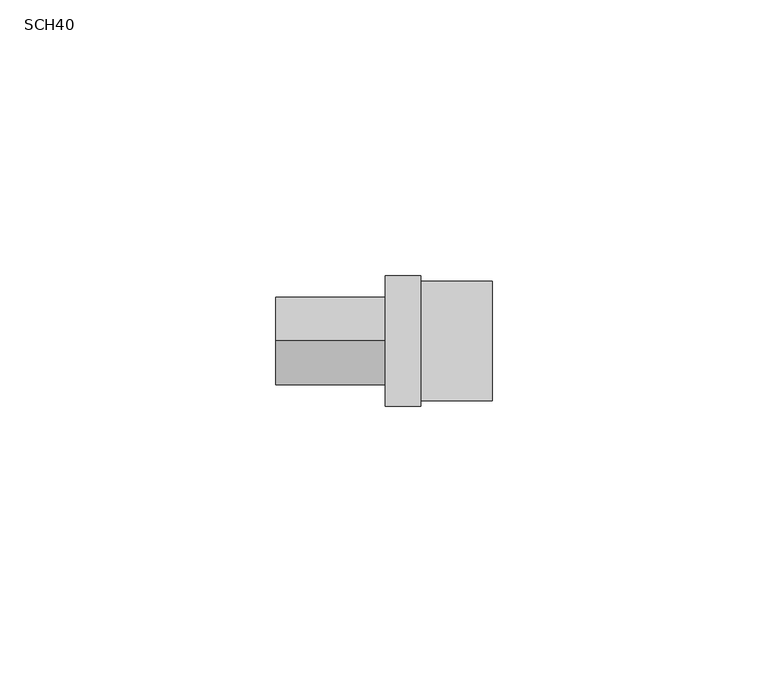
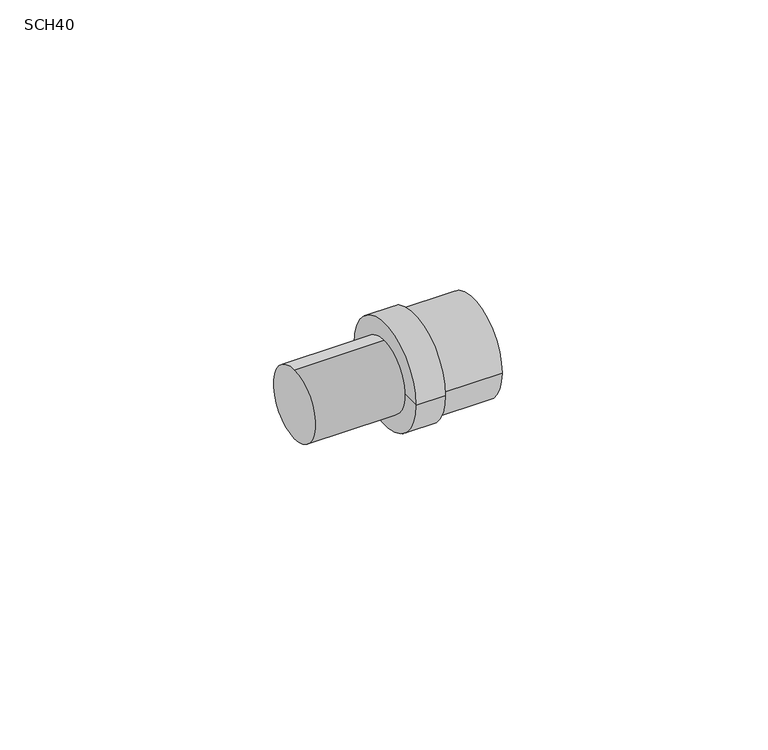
"""IFC4 building model written with IfcOpenShell, lengths in millimetres: pipe fitting geometry, PavcoWavin_UnionesDeTuberia_CpvcZNoUsarAdaptadorMacho : SCH40."""

from ifc_helpers import new_model, si_unit, point, frame, origin, origin_2d, place, context, project, spatial, polyline, circle_curve, trimmed, segment, composite_curve, outline, extrude, source, transform, mapped, element, save
from ifc_brep_helpers import plane_surface, cylinder_surface, revolved_surface, advanced_brep


def sch40_77e9e76e(model_context):
    return source(origin(), model_context, "Body", "SolidModel", [
        advanced_brep(
        [(13.13, 11.825, 0.0), (13.13, -11.825, 0.0), (6.76, -11.825, 0.0), (6.76, 11.825, 0.0), (13.13, 10.825, 0.0), (13.13, -10.825, 0.0), (26.13, 10.825, 0.0), (26.13, -10.825, 0.0), (26.13, 7.94, 0.0), (26.13, -7.94, 0.0), (13.13, 7.94, 0.0), (13.13, -7.94, 0.0), (13.13, 0.0, 0.0), (6.76, 0.0, 0.0)],
        [
            (0, 1, circle_curve(frame((13.13, 0.0, 0.0), z_axis=(-1.0, 0.0, 0.0), x_axis=(0.0, -1.0, 0.0)), 11.825)),
            (1, 2),
            (2, 3, circle_curve(frame((6.76, 0.0, 0.0), z_axis=(1.0, 0.0, 0.0), x_axis=(0.0, -1.0, 0.0)), 11.825)),
            (3, 0),
            (1, 0, circle_curve(frame((13.13, 0.0, 0.0), z_axis=(-1.0, 0.0, 0.0), x_axis=(0.0, -1.0, 0.0)), 11.825)),
            (3, 2, circle_curve(frame((6.76, 0.0, 0.0), z_axis=(1.0, 0.0, 0.0), x_axis=(0.0, -1.0, 0.0)), 11.825)),
            (4, 5, circle_curve(frame((13.13, 0.0, 0.0), z_axis=(-1.0, 0.0, 0.0), x_axis=(0.0, -1.0, 0.0)), 10.825)),
            (5, 1),
            (0, 4),
            (5, 4, circle_curve(frame((13.13, 0.0, 0.0), z_axis=(-1.0, 0.0, 0.0), x_axis=(0.0, -1.0, 0.0)), 10.825)),
            (6, 7, circle_curve(frame((26.13, 0.0, 0.0), z_axis=(-1.0, 0.0, 0.0), x_axis=(0.0, -1.0, 0.0)), 10.825)),
            (7, 5),
            (4, 6),
            (7, 6, circle_curve(frame((26.13, 0.0, 0.0), z_axis=(-1.0, 0.0, 0.0), x_axis=(0.0, -1.0, 0.0)), 10.825)),
            (8, 9, circle_curve(frame((26.13, 0.0, 0.0), z_axis=(-1.0, 0.0, 0.0), x_axis=(0.0, -1.0, 0.0)), 7.94)),
            (9, 7),
            (6, 8),
            (9, 8, circle_curve(frame((26.13, 0.0, 0.0), z_axis=(-1.0, 0.0, 0.0), x_axis=(0.0, -1.0, 0.0)), 7.94)),
            (10, 11, circle_curve(frame((13.13, 0.0, 0.0), z_axis=(-1.0, 0.0, 0.0), x_axis=(0.0, -1.0, 0.0)), 7.94)),
            (11, 9),
            (8, 10),
            (11, 10, circle_curve(frame((13.13, 0.0, 0.0), z_axis=(-1.0, 0.0, 0.0), x_axis=(0.0, -1.0, 0.0)), 7.94)),
            (12, 11),
            (10, 12),
            (2, 13),
            (13, 3),
        ],
        [
            cylinder_surface(frame((-1982.4494563, 0.0, 0.0), z_axis=(1.0, 0.0, 0.0), x_axis=(0.0, -1.0, 0.0)), 11.825),
            plane_surface(frame((13.13, 0.0, 0.0), z_axis=(1.0, 0.0, 0.0), x_axis=(0.0, -1.0, 0.0))),
            cylinder_surface(frame((-1982.4494563, 0.0, 0.0), z_axis=(1.0, 0.0, 0.0), x_axis=(0.0, -1.0, 0.0)), 10.825),
            plane_surface(frame((26.13, 0.0, 0.0), z_axis=(1.0, 0.0, 0.0), x_axis=(0.0, -1.0, 0.0))),
            revolved_surface(polyline([(26.13000000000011, -7.94, 0.0), (13.13000000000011, -7.94, 0.0)]), (-1982.4494563, 0.0, 0.0), (1.0, 0.0, 0.0)),
            plane_surface(frame((6.76, 0.0, 0.0), z_axis=(-1.0, 0.0, 0.0), x_axis=(0.0, -1.0, 0.0))),
        ],
        [
            (0, [[1, 2, 3, 4]]),
            (0, [[5, -4, 6, -2]]),
            (1, [[7, 8, -1, 9]]),
            (1, [[10, -9, -5, -8]]),
            (2, [[11, 12, -7, 13]]),
            (2, [[14, -13, -10, -12]]),
            (3, [[15, 16, -11, 17]]),
            (3, [[18, -17, -14, -16]]),
            (4, [[19, 20, -15, 21]]),
            (4, [[22, -21, -18, -20]]),
            (1, [[23, -19, 24]]),
            (1, [[-24, -22, -23]]),
            (5, [[-3, 25, 26]]),
            (5, [[-6, -26, -25]]),
        ],
    ),
        extrude(outline(composite_curve([segment(trimmed(circle_curve(origin_2d(), 7.94), [point((0.0, -7.94))], [point((0.0, 7.94))], False, "CARTESIAN"), True, "CONTINUOUS"), segment(trimmed(circle_curve(origin_2d(), 7.94), [point((0.0, 7.94))], [point((0.0, -7.94))], False, "CARTESIAN"), True, "CONTINUOUS")], self_intersect=False)), frame((-13.13, 0.0, 0.0), z_axis=(1.0, 0.0, 0.0), x_axis=(0.0, 1.0, 0.0)), (0.0, 0.0, 1.0), 26.26),
    ])


if __name__ == "__main__":
    model = new_model("IFC4")
    model_context = context("Model", 3, world=origin())
    ifc_project = project(units=[si_unit("LENGTHUNIT", "METRE", prefix="MILLI")], contexts=[model_context])
    site = spatial("IfcSite", under=ifc_project)
    building = spatial("IfcBuilding", under=site)
    placement = place(None, origin())
    sch40_shape = sch40_77e9e76e(model_context)
    element("IfcPipeFitting", 1, ObjectType="PavcoWavin_UnionesDeTuberia_CpvcZNoUsarAdaptadorMacho : SCH40", at=placement, inside=building, context=model_context, shape_type="MappedRepresentation", body=[
        mapped(sch40_shape, transform((0.0, 0.0, 0.0), x_axis=(1.0, 0.0, 0.0), y_axis=(0.0, 1.0, 0.0), z_axis=(0.0, 0.0, 1.0))),
    ])
    save(model, "model.ifc")
